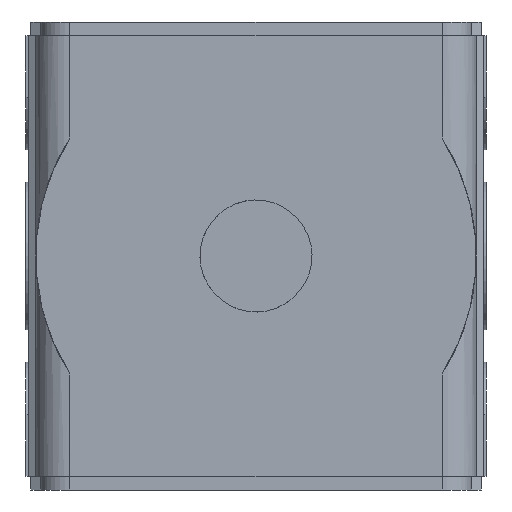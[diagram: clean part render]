
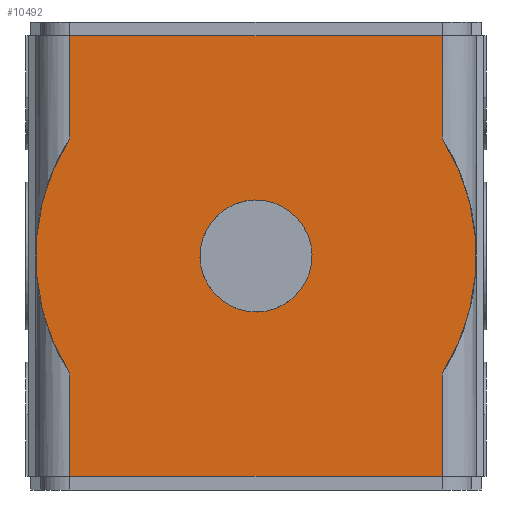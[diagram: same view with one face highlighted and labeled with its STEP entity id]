
A CAD part, front view. The second image highlights one B-rep face of the part: STEP entity #10492.
In plain terms, the highlighted planar face has unit normal (0, -1, 0).
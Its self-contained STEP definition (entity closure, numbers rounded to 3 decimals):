
#4547=CARTESIAN_POINT('',(-19.,-26.0,22.5));
#4548=VERTEX_POINT('',#4547);
#4556=CARTESIAN_POINT('',(19.,-26.,22.5));
#4557=VERTEX_POINT('',#4556);
#4558=CARTESIAN_POINT('',(19.,-26.,22.5));
#4559=DIRECTION('',(-1.0,0.0,0.0));
#4560=VECTOR('',#4559,38.);
#4561=LINE('',#4558,#4560);
#4562=EDGE_CURVE('',#4557,#4548,#4561,.T.);
#6669=CARTESIAN_POINT('',(-19.,-26.,-12.052));
#6670=VERTEX_POINT('',#6669);
#6686=CARTESIAN_POINT('',(-19.,-26.,12.052));
#6687=VERTEX_POINT('',#6686);
#6688=CARTESIAN_POINT('',(0.,-26.,0.0));
#6689=DIRECTION('',(0.,1.,0.));
#6690=DIRECTION('',(0.844,0.,-0.536));
#6691=AXIS2_PLACEMENT_3D('',#6688,#6689,#6690);
#6692=CIRCLE('',#6691,22.5);
#6693=EDGE_CURVE('',#6670,#6687,#6692,.T.);
#6721=CARTESIAN_POINT('',(19.,-26.,-12.052));
#6722=VERTEX_POINT('',#6721);
#6739=CARTESIAN_POINT('',(19.,-26.,12.052));
#6740=VERTEX_POINT('',#6739);
#6754=CARTESIAN_POINT('',(0.,-26.,0.0));
#6755=DIRECTION('',(0.,-1.,0.));
#6756=DIRECTION('',(0.844,0.,-0.536));
#6757=AXIS2_PLACEMENT_3D('',#6754,#6755,#6756);
#6758=CIRCLE('',#6757,22.5);
#6759=EDGE_CURVE('',#6722,#6740,#6758,.T.);
#6770=CARTESIAN_POINT('',(-19.,-26.0,22.5));
#6771=DIRECTION('',(0.0,0.0,-1.0));
#6772=VECTOR('',#6771,10.448);
#6773=LINE('',#6770,#6772);
#6774=EDGE_CURVE('',#4548,#6687,#6773,.T.);
#6800=CARTESIAN_POINT('',(-19.,-26.0,-22.5));
#6801=VERTEX_POINT('',#6800);
#6809=CARTESIAN_POINT('',(-19.,-26.0,-12.052));
#6810=DIRECTION('',(0.0,0.0,-1.0));
#6811=VECTOR('',#6810,10.448);
#6812=LINE('',#6809,#6811);
#6813=EDGE_CURVE('',#6670,#6801,#6812,.T.);
#6831=CARTESIAN_POINT('',(19.,-26.,22.5));
#6832=DIRECTION('',(0.0,0.0,-1.0));
#6833=VECTOR('',#6832,10.448);
#6834=LINE('',#6831,#6833);
#6835=EDGE_CURVE('',#4557,#6740,#6834,.T.);
#7155=CARTESIAN_POINT('',(5.721,-26.,0.149));
#7156=VERTEX_POINT('',#7155);
#7157=CARTESIAN_POINT('',(0.,-26.,0.0));
#7158=DIRECTION('',(0.0,1.0,0.0));
#7159=DIRECTION('',(-1.,0.0,-0.026));
#7160=AXIS2_PLACEMENT_3D('',#7157,#7158,#7159);
#7161=CIRCLE('',#7160,5.723);
#7162=EDGE_CURVE('',#7156,#7156,#7161,.T.);
#8858=CARTESIAN_POINT('',(19.,-26.,-22.5));
#8859=VERTEX_POINT('',#8858);
#8867=CARTESIAN_POINT('',(-19.,-26.0,-22.5));
#8868=DIRECTION('',(1.0,0.0,0.0));
#8869=VECTOR('',#8868,38.);
#8870=LINE('',#8867,#8869);
#8871=EDGE_CURVE('',#6801,#8859,#8870,.T.);
#10463=CARTESIAN_POINT('',(19.,-26.,-12.052));
#10464=DIRECTION('',(0.0,0.0,-1.0));
#10465=VECTOR('',#10464,10.448);
#10466=LINE('',#10463,#10465);
#10467=EDGE_CURVE('',#6722,#8859,#10466,.T.);
#10474=CARTESIAN_POINT('',(19.,-26.,0.0));
#10475=DIRECTION('',(0.0,-1.0,0.0));
#10476=DIRECTION('',(0.0,0.0,-1.0));
#10477=AXIS2_PLACEMENT_3D('',#10474,#10475,#10476);
#10478=PLANE('',#10477);
#10479=ORIENTED_EDGE('',*,*,#4562,.T.);
#10480=ORIENTED_EDGE('',*,*,#6774,.T.);
#10481=ORIENTED_EDGE('',*,*,#6693,.F.);
#10482=ORIENTED_EDGE('',*,*,#6813,.T.);
#10483=ORIENTED_EDGE('',*,*,#8871,.T.);
#10484=ORIENTED_EDGE('',*,*,#10467,.F.);
#10485=ORIENTED_EDGE('',*,*,#6759,.T.);
#10486=ORIENTED_EDGE('',*,*,#6835,.F.);
#10487=EDGE_LOOP('',(#10479,#10480,#10481,#10482,#10483,#10484,#10485,#10486));
#10488=FACE_OUTER_BOUND('',#10487,.T.);
#10489=ORIENTED_EDGE('',*,*,#7162,.T.);
#10490=EDGE_LOOP('',(#10489));
#10491=FACE_BOUND('',#10490,.T.);
#10492=ADVANCED_FACE('',(#10488,#10491),#10478,.T.);
